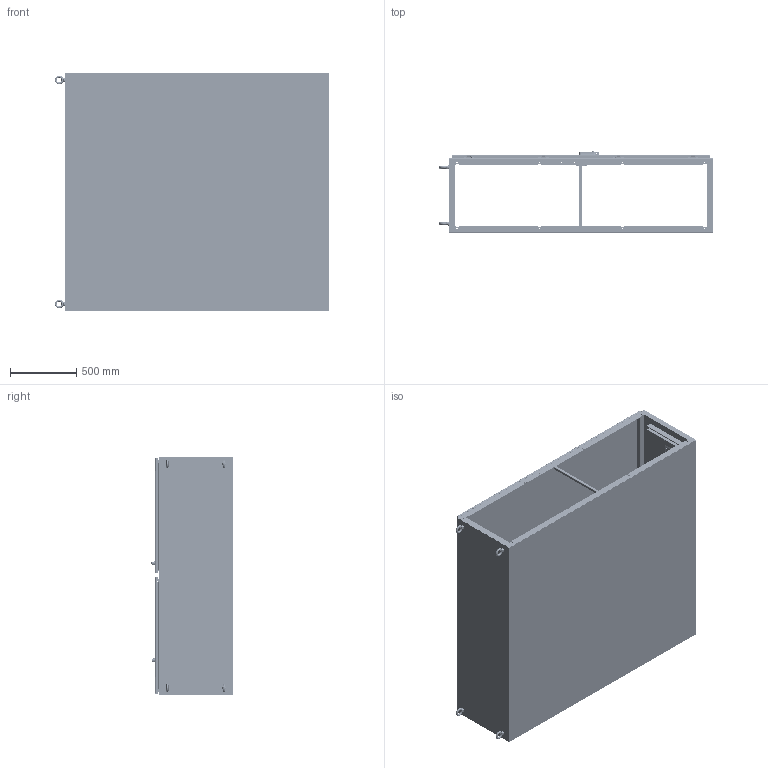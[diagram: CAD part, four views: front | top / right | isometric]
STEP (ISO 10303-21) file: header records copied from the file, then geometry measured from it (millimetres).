
FILE_DESCRIPTION((''),'2;1');
FILE_NAME('MODEL-258_ASM','2021-08-03T11:18:18',('mikek'),('SAGINAW CONTROL & ENGINEERING'),'CREO PARAMETRIC BY PTC INC, 2017260','CREO PARAMETRIC BY PTC INC, 2017260','');
FILE_SCHEMA(('AUTOMOTIVE_DESIGN { 1 0 10303 214 1 1 1 1 }'));
Length unit declared in the file: inch
Products named in the file (138): MODEL-258-R-SD; MODEL-258-BCK; MODEL-258-L-SD; MODEL-258-TP; MODEL-258-BTM; MODEL-258-BB; 127619; 100028; 127619_ASM; MODEL-258-CCA-CHNL; MODEL-258-CCA-STIF; 100062; 127618; 127617; 102535; 100057; MODEL-258-CCASSY_ASM; MODEL-258-MSTR-DR; 100837; 111267; 100882; 129334-HANDLE-STOP; 129334-HANDLE-BASE; 129334-INSERT-SPRING; 129334-HANDLE-PIN; 129334-HANDLE-SHAFT; 129334-HANDLE-LOCK-SCREW; 129334-HANDLE; 129334-COINPROOF-INSERT; 129334-HANDLE-LOCK; 129334-HANDLE-SHAFT-O-RING; 129334-HANDLE_ASM; 129334-LOCK-NUT; 129334-BASE-CAP; 129334-CAM-ADAPTER; 129334-NUT; 129334_ASM; 102237; 100030; 102237_ASM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
Assembly tree (331 placements, depth 5):
  MODEL-258_ASM
    MODEL-258-R-SD
    MODEL-258-BCK
    MODEL-258-L-SD
    MODEL-258-TP
    MODEL-258-BTM
    MODEL-258-BB
    127619_ASM  x2
      127619
      100028
    MODEL-258-CCASSY_ASM
      MODEL-258-CCA-CHNL
      MODEL-258-CCA-STIF
      100062  x4
      127618  x2
      127617  x2
      102535  x8
      100057  x2
    MODEL-258-MASTER-DR-ASSY_ASM
      MODEL-258-MSTR-DR
      100837  x7
      111267
      100882  x12
      129334_ASM
        129334-HANDLE-STOP
        129334-HANDLE-BASE
        129334-HANDLE_ASM
          129334-INSERT-SPRING
          129334-HANDLE-PIN
          129334-HANDLE-SHAFT
          129334-HANDLE-LOCK-SCREW
          129334-HANDLE
          129334-COINPROOF-INSERT
          129334-HANDLE-LOCK
          129334-HANDLE-SHAFT-O-RING
        129334-LOCK-NUT
        129334-BASE-CAP
        129334-CAM-ADAPTER
        129334-NUT  x2
      102237_ASM
        102237
        100030  x2
      MODEL-258-ROD-UPR-MSTR_ASM
        MODEL-258-ROD-UPR-MSTR
        128146
        128145
        128144
        102482  x2
      128143  x2
      112504  x2
      MODEL-258-ROD-LWR-MSTR_ASM
        MODEL-258-ROD-LWR-MSTR
        128146
        128145
        128144
        102482  x2
      MODEL-258-GSKT-MSTR
      128257_ASM  x4
        128257
        126397
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Bounding box: 2074.9 x 613.42 x 1804.01 mm (x, y, z)
Volume: 36128636.6 mm3; surface area: 25217829.4 mm2
Topology: 358 solids, 358 shells, 29746 faces, 78010 edges, 48890 vertices
Faces by surface type: plane 10209, bspline 8519, cylinder 7552, torus 1679, cone 1050, sphere 636, extrusion 101
Entity records: 505373 total; most frequent: CARTESIAN_POINT 193802, ORIENTED_EDGE 45930, DIRECTION 41796, PRESENTATION_STYLE_ASSIGNMENT 23460, STYLED_ITEM 23459, EDGE_CURVE 22965, CURVE_STYLE 22953, AXIS2_PLACEMENT_3D 15677
